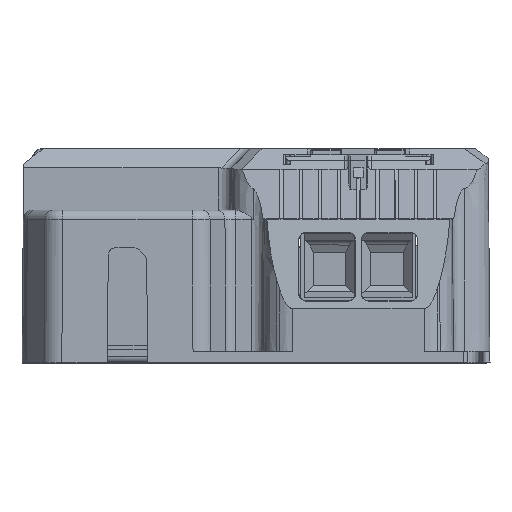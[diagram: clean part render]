
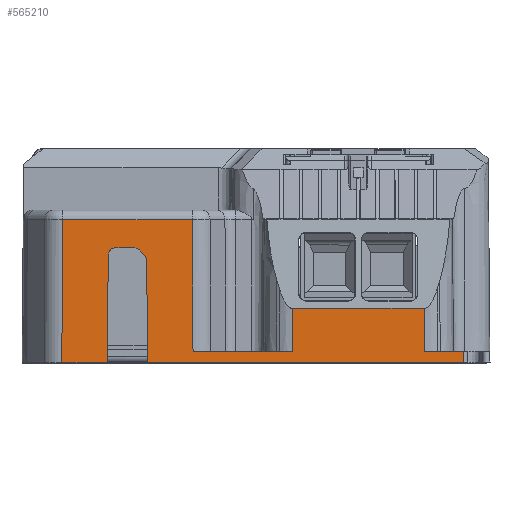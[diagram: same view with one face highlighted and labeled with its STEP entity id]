
A CAD part, front view. The second image highlights one B-rep face of the part: STEP entity #565210.
In plain terms, the highlighted planar face has unit normal (0, -1, 0.009) as drawn and (0, 1, 0.009) by its records, which use the part's own axes.
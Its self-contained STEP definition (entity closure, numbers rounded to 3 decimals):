
#557670=CARTESIAN_POINT('',(50.608,55.489,
0.1));
#557680=VERTEX_POINT('',#557670);
#557710=CARTESIAN_POINT('',(50.608,55.489,
0.1));
#557720=DIRECTION('',(-1.,0.,0.));
#557730=VECTOR('',#557720,1.);
#557740=LINE('',#557710,#557730);
#557750=CARTESIAN_POINT('',(38.765,55.489,
0.1));
#557760=VERTEX_POINT('',#557750);
#557770=EDGE_CURVE('',#557680,#557760,#557740,.T.);
#562430=CARTESIAN_POINT('',(-9.5,55.463,
3.1));
#562440=DIRECTION('',(1.,0.,0.));
#562450=VECTOR('',#562440,1.);
#562460=LINE('',#562430,#562450);
#562470=CARTESIAN_POINT('',(-9.5,55.463,
3.1));
#562480=VERTEX_POINT('',#562470);
#562490=CARTESIAN_POINT('',(16.426,55.463,
3.1));
#562500=VERTEX_POINT('',#562490);
#562510=EDGE_CURVE('',#562480,#562500,#562460,.T.);
#563690=CARTESIAN_POINT('',(55.644,55.002,55.9));
#563700=DIRECTION('',(0.,1.,
0.009));
#563710=DIRECTION('',(1.,0.,
0.));
#563720=AXIS2_PLACEMENT_3D('',#563690,#563700,#563710);
#563730=PLANE('',#563720);
#563740=CARTESIAN_POINT('',(36.522,55.245,28.1));
#563750=DIRECTION('',(0.,-1.,
-0.009));
#563760=DIRECTION('',(0.,0.009,
-1.));
#563770=AXIS2_PLACEMENT_3D('',#563740,#563750,#563760);
#563780=ELLIPSE('',#563770,2.,2.);
#563790=CARTESIAN_POINT('',(38.522,55.245,
28.117));
#563800=VERTEX_POINT('',#563790);
#563810=CARTESIAN_POINT('',(36.522,55.227,30.1));
#563820=VERTEX_POINT('',#563810);
#563830=EDGE_CURVE('',#563800,#563820,#563780,.T.);
#563840=ORIENTED_EDGE('',*,*,#563830,.T.);
#563850=CARTESIAN_POINT('',(38.767,55.489,
0.1));
#563860=DIRECTION('',(-0.009,-0.009,
1.));
#563870=VECTOR('',#563860,1.);
#563880=LINE('',#563850,#563870);
#563890=CARTESIAN_POINT('',(38.765,55.488,0.25));
#563900=VERTEX_POINT('',#563890);
#563910=EDGE_CURVE('',#563900,#563800,#563880,.T.);
#563920=ORIENTED_EDGE('',*,*,#563910,.T.);
#563930=CARTESIAN_POINT('',(38.765,55.49,0.));
#563940=DIRECTION('',(0.,0.009,-1.));
#563950=VECTOR('',#563940,1.);
#563960=LINE('',#563930,#563950);
#563970=EDGE_CURVE('',#563900,#557760,#563960,.T.);
#563980=ORIENTED_EDGE('',*,*,#563970,.F.);
#563990=ORIENTED_EDGE('',*,*,#557770,.T.);
#564000=CARTESIAN_POINT('',(50.431,55.164,
37.422));
#564010=DIRECTION('',(0.005,0.009,
-1.));
#564020=VECTOR('',#564010,1.);
#564030=LINE('',#564000,#564020);
#564040=CARTESIAN_POINT('',(50.431,55.164,
37.422));
#564050=VERTEX_POINT('',#564040);
#564060=EDGE_CURVE('',#564050,#557680,#564030,.T.);
#564070=ORIENTED_EDGE('',*,*,#564060,.T.);
#564080=CARTESIAN_POINT('',(50.431,55.164,
37.422));
#564090=DIRECTION('',(-1.,0.,0.));
#564100=VECTOR('',#564090,1.);
#564110=LINE('',#564080,#564100);
#564120=CARTESIAN_POINT('',(16.6,55.164,
37.422));
#564130=VERTEX_POINT('',#564120);
#564140=EDGE_CURVE('',#564050,#564130,#564110,.T.);
#564150=ORIENTED_EDGE('',*,*,#564140,.F.);
#564160=CARTESIAN_POINT('',(16.426,55.463,
3.1));
#564170=DIRECTION('',(0.005,-0.009,
1.));
#564180=VECTOR('',#564170,1.);
#564190=LINE('',#564160,#564180);
#564200=EDGE_CURVE('',#562500,#564130,#564190,.T.);
#564210=ORIENTED_EDGE('',*,*,#564200,.T.);
#564220=ORIENTED_EDGE('',*,*,#562510,.T.);
#564230=CARTESIAN_POINT('',(-9.5,55.463,
3.1));
#564240=DIRECTION('',(0.,-0.009,
1.));
#564250=VECTOR('',#564240,1.);
#564260=LINE('',#564230,#564250);
#564270=CARTESIAN_POINT('',(-9.5,55.365,
14.309));
#564280=VERTEX_POINT('',#564270);
#564290=EDGE_CURVE('',#562480,#564280,#564260,.T.);
#564300=ORIENTED_EDGE('',*,*,#564290,.F.);
#564310=CARTESIAN_POINT('',(-9.5,55.365,
14.309));
#564320=DIRECTION('',(-1.,0.,
0.));
#564330=VECTOR('',#564320,1.);
#564340=LINE('',#564310,#564330);
#564350=CARTESIAN_POINT('',(-43.821,55.365,
14.309));
#564360=VERTEX_POINT('',#564350);
#564370=EDGE_CURVE('',#564280,#564360,#564340,.T.);
#564380=ORIENTED_EDGE('',*,*,#564370,.F.);
#564390=CARTESIAN_POINT('',(-43.821,55.365,
14.309));
#564400=DIRECTION('',(0.,0.009,
-1.));
#564410=VECTOR('',#564400,1.);
#564420=LINE('',#564390,#564410);
#564430=CARTESIAN_POINT('',(-43.821,55.463,
3.1));
#564440=VERTEX_POINT('',#564430);
#564450=EDGE_CURVE('',#564360,#564440,#564420,.T.);
#564460=ORIENTED_EDGE('',*,*,#564450,.F.);
#564470=CARTESIAN_POINT('',(-54.133,55.463,
3.1));
#564480=DIRECTION('',(1.,0.,0.));
#564490=VECTOR('',#564480,1.);
#564500=LINE('',#564470,#564490);
#564510=CARTESIAN_POINT('',(-54.133,55.463,
3.1));
#564520=VERTEX_POINT('',#564510);
#564530=EDGE_CURVE('',#564520,#564440,#564500,.T.);
#564540=ORIENTED_EDGE('',*,*,#564530,.T.);
#564550=CARTESIAN_POINT('',(-54.133,55.463,
3.1));
#564560=DIRECTION('',(0.,0.009,
-1.));
#564570=VECTOR('',#564560,1.);
#564580=LINE('',#564550,#564570);
#564590=CARTESIAN_POINT('',(-54.133,55.489,
0.1));
#564600=VERTEX_POINT('',#564590);
#564610=EDGE_CURVE('',#564520,#564600,#564580,.T.);
#564620=ORIENTED_EDGE('',*,*,#564610,.F.);
#564630=CARTESIAN_POINT('',(-54.133,55.489,
0.1));
#564640=DIRECTION('',(1.,0.,0.));
#564650=VECTOR('',#564640,1.);
#564660=LINE('',#564630,#564650);
#564670=CARTESIAN_POINT('',(28.255,55.489,
0.1));
#564680=VERTEX_POINT('',#564670);
#564690=EDGE_CURVE('',#564600,#564680,#564660,.T.);
#564700=ORIENTED_EDGE('',*,*,#564690,.F.);
#564710=CARTESIAN_POINT('',(28.255,55.49,0.));
#564720=DIRECTION('',(0.,-0.009,1.));
#564730=VECTOR('',#564720,1.);
#564740=LINE('',#564710,#564730);
#564750=CARTESIAN_POINT('',(28.265,55.488,0.25));
#564760=VERTEX_POINT('',#564750);
#564770=EDGE_CURVE('',#564680,#564760,#564740,.T.);
#564780=ORIENTED_EDGE('',*,*,#564770,.F.);
#564790=CARTESIAN_POINT('',(28.496,55.257,
26.72));
#564800=DIRECTION('',(-0.009,0.009,
-1.));
#564810=VECTOR('',#564800,1.);
#564820=LINE('',#564790,#564810);
#564830=CARTESIAN_POINT('',(28.496,55.257,
26.72));
#564840=VERTEX_POINT('',#564830);
#564850=EDGE_CURVE('',#564840,#564760,#564820,.T.);
#564860=ORIENTED_EDGE('',*,*,#564850,.T.);
#564870=CARTESIAN_POINT('',(30.496,55.257,
26.702));
#564880=DIRECTION('',(0.,-1.,
-0.009));
#564890=DIRECTION('',(0.,-0.009,
1.));
#564900=AXIS2_PLACEMENT_3D('',#564870,#564880,#564890);
#564910=ELLIPSE('',#564900,2.,2.);
#564920=CARTESIAN_POINT('',(29.082,55.245,
28.117));
#564930=VERTEX_POINT('',#564920);
#564940=EDGE_CURVE('',#564930,#564840,#564910,.T.);
#564950=ORIENTED_EDGE('',*,*,#564940,.T.);
#564960=CARTESIAN_POINT('',(30.48,55.233,
29.514));
#564970=DIRECTION('',(-0.707,0.006,
-0.707));
#564980=VECTOR('',#564970,1.);
#564990=LINE('',#564960,#564980);
#565000=CARTESIAN_POINT('',(30.48,55.233,
29.514));
#565010=VERTEX_POINT('',#565000);
#565020=EDGE_CURVE('',#565010,#564930,#564990,.T.);
#565030=ORIENTED_EDGE('',*,*,#565020,.T.);
#565040=CARTESIAN_POINT('',(31.894,55.245,28.1));
#565050=DIRECTION('',(0.,-1.,
-0.009));
#565060=DIRECTION('',(0.,0.009,
-1.));
#565070=AXIS2_PLACEMENT_3D('',#565040,#565050,#565060);
#565080=ELLIPSE('',#565070,2.,2.);
#565090=CARTESIAN_POINT('',(31.894,55.227,30.1));
#565100=VERTEX_POINT('',#565090);
#565110=EDGE_CURVE('',#565100,#565010,#565080,.T.);
#565120=ORIENTED_EDGE('',*,*,#565110,.T.);
#565130=CARTESIAN_POINT('',(36.522,55.227,30.1));
#565140=DIRECTION('',(-1.,0.,0.));
#565150=VECTOR('',#565140,1.);
#565160=LINE('',#565130,#565150);
#565170=EDGE_CURVE('',#563820,#565100,#565160,.T.);
#565180=ORIENTED_EDGE('',*,*,#565170,.T.);
#565190=EDGE_LOOP('',(#565180,#565120,#565030,#564950,#564860,#564780,
#564700,#564620,#564540,#564460,#564380,#564300,#564220,#564210,#564150,
#564070,#563990,#563980,#563920,#563840));
#565200=FACE_OUTER_BOUND('',#565190,.T.);
#565210=ADVANCED_FACE('',(#565200),#563730,.T.);
